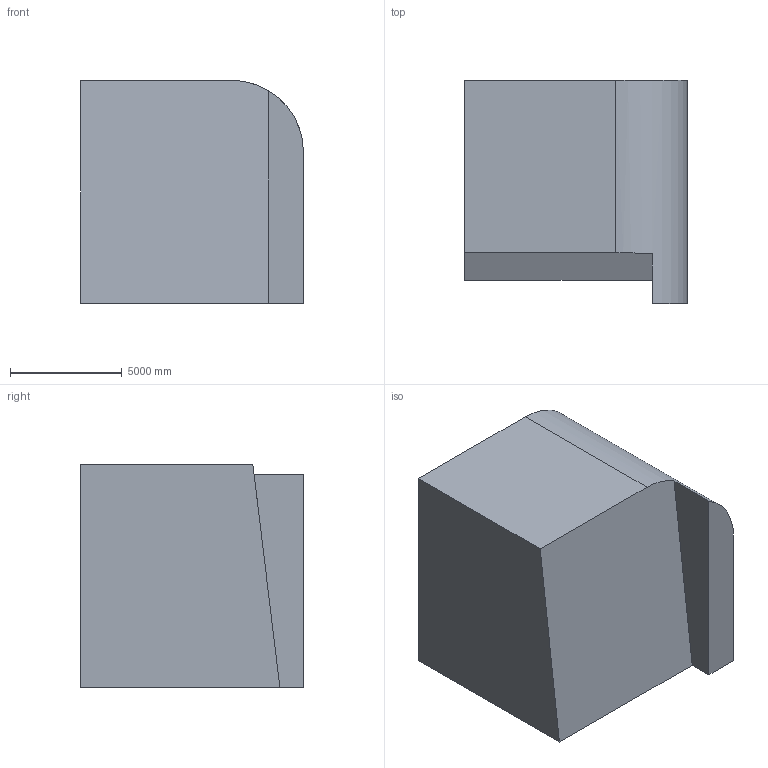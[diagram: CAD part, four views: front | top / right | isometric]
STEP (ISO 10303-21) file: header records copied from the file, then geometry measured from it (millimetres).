
FILE_DESCRIPTION (( 'STEP AP203' ), '1' );
FILE_NAME ('289.STEP', '2022-07-28T14:13:21', ( 'user' ), ( '' ), 'SwSTEP 2.0', 'SolidWorks 2021', '' );
FILE_SCHEMA (( 'CONFIG_CONTROL_DESIGN' ));
Length unit declared in the file: centimetre
Products named in the file (1): 289
Bounding box: 10000 x 10000 x 10000 mm (x, y, z)
Volume: 791726957021.7 mm3; surface area: 597938152.1 mm2
Topology: 1 solids, 1 shells, 14 faces, 33 edges, 22 vertices
Faces by surface type: plane 13, cylinder 1
Entity records: 476 total; most frequent: CARTESIAN_POINT 73, ORIENTED_EDGE 66, DIRECTION 64, EDGE_CURVE 33, VECTOR 30, LINE 30, VERTEX_POINT 22, AXIS2_PLACEMENT_3D 17
